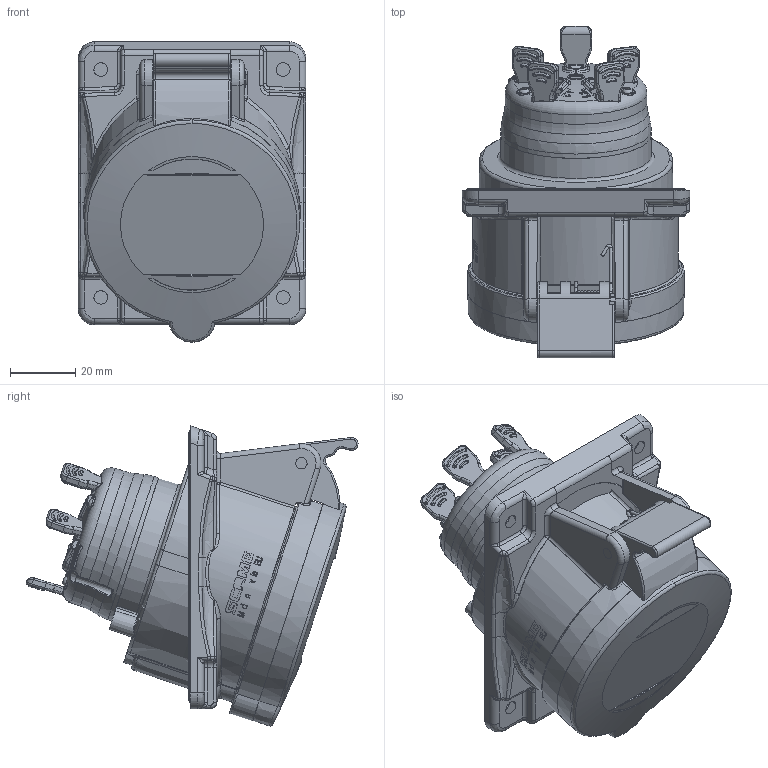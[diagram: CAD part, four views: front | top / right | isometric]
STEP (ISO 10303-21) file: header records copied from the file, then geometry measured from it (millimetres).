
FILE_DESCRIPTION(/* description */ (''),/* implementation_level */ '2;1');
FILE_NAME(/* name */ '4001806.stp',/* time_stamp */ '2017-05-04T08:56:53+02:00',/* author */ (''),/* organization */ (''),/* preprocessor_version */ 'ST-DEVELOPER v16',/* originating_system */ 'SIEMENS PLM Software NX 11.0',/* authorisation */ '');
FILE_SCHEMA (('AUTOMOTIVE_DESIGN { 1 0 10303 214 3 1 1 1 }'));
Length unit declared in the file: millimetre
Products named in the file (1): 4001806_LINKEDEXT_jt
Bounding box: 70 x 102.04 x 92.31 mm (x, y, z)
Surface area: 74185.9 mm2 (no closed solid volume)
Topology: 0 solids, 141 shells, 1401 faces, 5077 edges, 3618 vertices
Faces by surface type: bspline 566, cylinder 436, plane 237, torus 75, cone 38, sphere 26, extrusion 15, revolution 8
Full cylindrical faces by diameter (mm): 0.998 x4, 2.4 x4, 4 x1, 4.2 x1, 4.25 x3, 5 x2, 46.2 x1
Entity records: 111325 total; most frequent: CARTESIAN_POINT 65205, ORIENTED_EDGE 7181, DIRECTION 6061, EDGE_CURVE 4919, VERTEX_POINT 3594, AXIS2_PLACEMENT_3D 2251, B_SPLINE_CURVE_WITH_KNOTS 1968, VECTOR 1551
